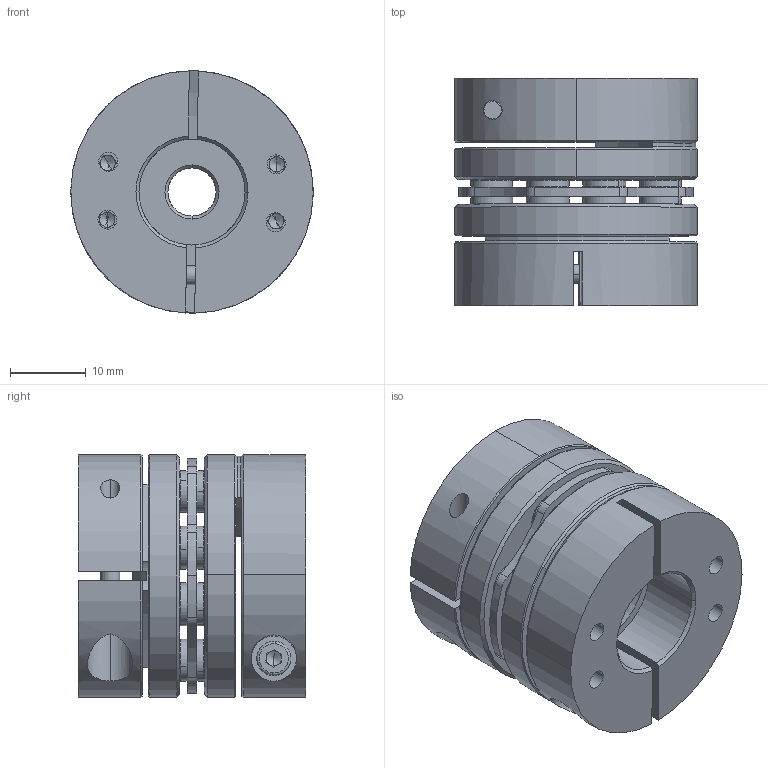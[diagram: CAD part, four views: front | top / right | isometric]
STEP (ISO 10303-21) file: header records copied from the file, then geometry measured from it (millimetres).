
FILE_DESCRIPTION (( 'STEP AP203' ), '1' );
FILE_NAME ('LDG-32-B1-6.35-14.STEP', '2021-10-28T05:08:53', ( '' ), ( '' ), 'SwSTEP 2.0', 'SolidWorks 2018', '' );
FILE_SCHEMA (( 'CONFIG_CONTROL_DESIGN' ));
Length unit declared in the file: millimetre
Products named in the file (2): 錨璃5^LDG-32蚾饜芞1; LDG-32-B1-6.35-14
Assembly tree (1 placements, depth 2):
  LDG-32-B1-6.35-14
    錨璃5^LDG-32蚾饜芞1
Bounding box: 32 x 30 x 32 mm (x, y, z)
Volume: 17495.6 mm3; surface area: 13127.9 mm2
Topology: 1 solids, 11 shells, 795 faces, 1967 edges, 1216 vertices
Faces by surface type: cylinder 301, plane 244, cone 230, torus 20
Entity records: 24191 total; most frequent: CARTESIAN_POINT 4472, DIRECTION 4465, ORIENTED_EDGE 3878, EDGE_CURVE 1939, AXIS2_PLACEMENT_3D 1819, VERTEX_POINT 1216, CIRCLE 1020, EDGE_LOOP 939
